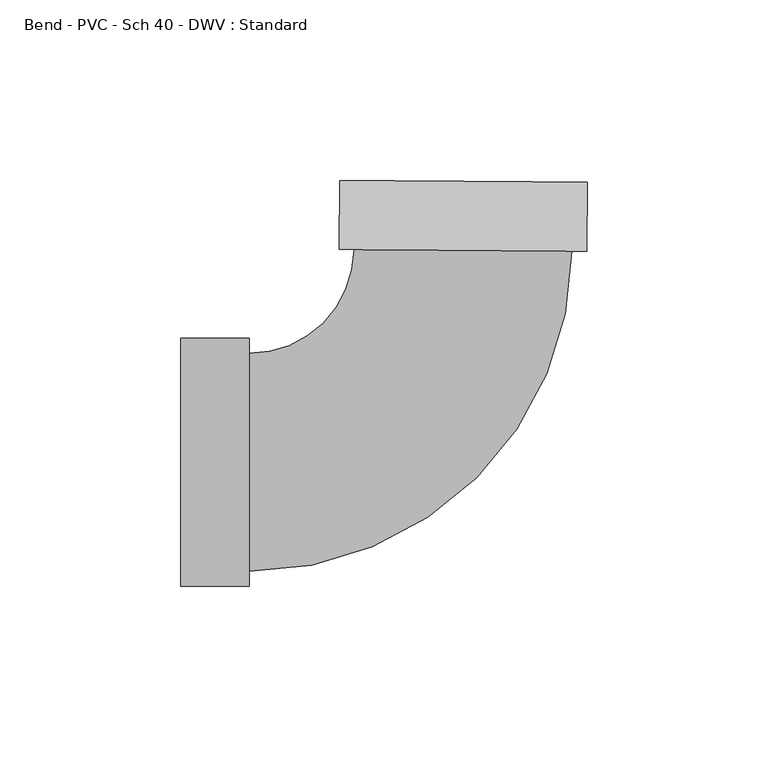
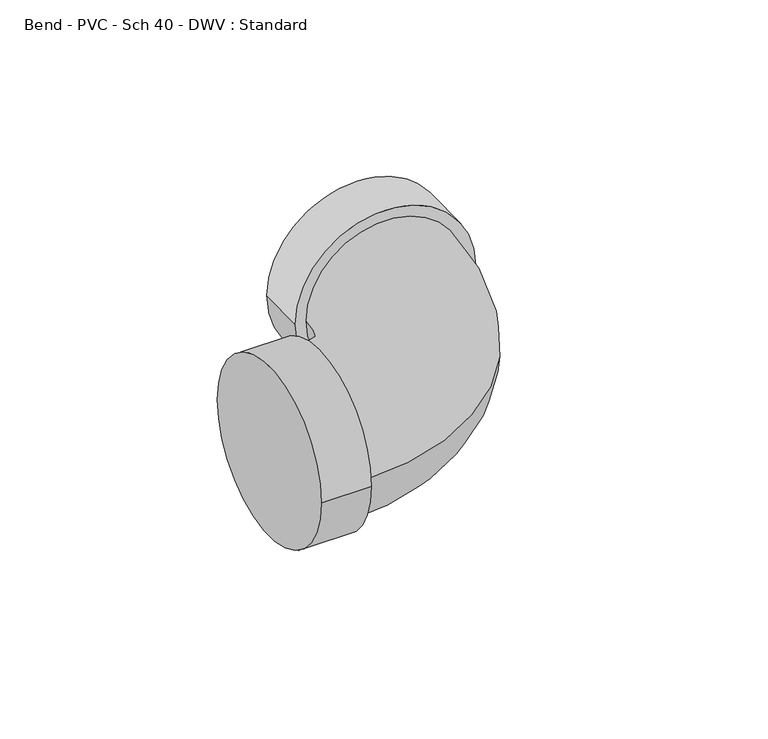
"""IFC4 building model written with IfcOpenShell, lengths in millimetres: pipe fitting geometry, Bend - PVC - Sch 40 - DWV : Standard."""

from ifc_helpers import new_model, si_unit, point, frame, origin, place, context, project, spatial, circle_curve, ellipse_curve, trimmed, source, transform, mapped, element, save
from ifc_brep_helpers import plane_surface, cylinder_surface, revolved_surface, advanced_brep


def bend_pvc_sch_40_dwv_standard_e19a0162(model_context):
    return source(origin(), model_context, "Body", "AdvancedBrep", [
        advanced_brep(
        [(-77.8002, -34.3154, 0.0), (-77.8002, 34.3154, 0.0), (-58.7502, -34.3154, 0.0), (-58.7502, 34.3154, 0.0), (-58.7502, -30.1625, 0.0), (-58.7502, 30.1625, 0.0), (-29.7304342, 58.9700236, 0.0), (30.5929405, 58.5272107, 0.0), (34.7457287, 58.4967266, 0.0), (-33.8832223, 59.0005078, 0.0), (34.8855643, 77.5462133, 0.0), (-33.7433867, 78.0499946, 0.0)],
        [
            (0, 1, circle_curve(frame((-77.8002, 0.0, 0.0), z_axis=(-1.0, 0.0, 0.0), x_axis=(0.0, 1.0, 0.0)), 34.3154)),
            (1, 0, circle_curve(frame((-77.8002, 0.0, 0.0), z_axis=(-1.0, 0.0, 0.0), x_axis=(0.0, 1.0, 0.0)), 34.3154)),
            (2, 3, circle_curve(frame((-58.7502, 0.0, 0.0), z_axis=(1.0, 0.0, 0.0), x_axis=(0.0, 1.0, 0.0)), 34.3154)),
            (3, 2, circle_curve(frame((-58.7502, 0.0, 0.0), z_axis=(1.0, 0.0, 0.0), x_axis=(0.0, 1.0, 0.0)), 34.3154)),
            (4, 5, circle_curve(frame((-58.7502, 0.0, 0.0), z_axis=(-1.0, 0.0, 0.0), x_axis=(0.0, 1.0, 0.0)), 30.1625)),
            (5, 4, circle_curve(frame((-58.7502, 0.0, 0.0), z_axis=(-1.0, 0.0, 0.0), x_axis=(0.0, 1.0, 0.0)), 30.1625)),
            (0, 2),
            (3, 1),
            (6, 5, circle_curve(frame((-58.7502, 59.1830476, 0.0), z_axis=(0.0, 0.0, -1.0), x_axis=(0.0, -1.0, 0.0)), 29.0205476)),
            (4, 7, circle_curve(frame((-58.7502, 59.1830476, 0.0), z_axis=(0.0, 0.0, 1.0), x_axis=(0.0, -1.0, 0.0)), 89.3455476)),
            (7, 6, circle_curve(frame((0.4312532, 58.7486172, 0.0), z_axis=(-0.007340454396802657, -0.999973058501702, 0.0), x_axis=(-0.999973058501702, 0.007340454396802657, 0.0)), 30.1625)),
            (6, 7, circle_curve(frame((0.4312532, 58.7486172, 0.0), z_axis=(-0.007340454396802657, -0.999973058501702, 0.0), x_axis=(-0.999973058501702, 0.007340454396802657, 0.0)), 30.1625)),
            (8, 9, circle_curve(frame((0.4312532, 58.7486172, 0.0), z_axis=(-0.007340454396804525, -0.9999730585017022, 0.0), x_axis=(-0.9999730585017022, 0.007340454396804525, 0.0)), 34.3154)),
            (9, 8, circle_curve(frame((0.4312532, 58.7486172, 0.0), z_axis=(-0.007340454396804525, -0.9999730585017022, 0.0), x_axis=(-0.9999730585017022, 0.007340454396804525, 0.0)), 34.3154)),
            (10, 11, circle_curve(frame((0.5710888, 77.7981039, 0.0), z_axis=(0.007340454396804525, 0.9999730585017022, 0.0), x_axis=(-0.9999730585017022, 0.007340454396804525, 0.0)), 34.3154)),
            (11, 10, circle_curve(frame((0.5710888, 77.7981039, 0.0), z_axis=(0.007340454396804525, 0.9999730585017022, 0.0), x_axis=(-0.9999730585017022, 0.007340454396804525, 0.0)), 34.3154)),
            (8, 10),
            (11, 9),
        ],
        [
            plane_surface(frame((-77.8002, 0.0, 0.0), z_axis=(-1.0, 0.0, 0.0), x_axis=(0.0, 0.0, 1.0))),
            plane_surface(frame((-58.7502, 0.0, 0.0), z_axis=(1.0, 0.0, 0.0), x_axis=(0.0, 0.0, 1.0))),
            cylinder_surface(frame((-77.8002, 0.0, 0.0), z_axis=(-1.0, 0.0, 0.0), x_axis=(0.0, 1.0, 0.0)), 34.3154),
            revolved_surface(trimmed(ellipse_curve(frame((-58.7502, 0.0, 0.0), z_axis=(-1.0, 0.0, 0.0), x_axis=(0.0, 1.0, 0.0)), 30.1625, 30.1625), [point((-58.7502, -30.1625, 0.0))], [point((-58.7502, 30.1625, 0.0))], True, "CARTESIAN"), (-58.7502, 59.1830476, 0.0), (0.0, 0.0, 1.0)),
            revolved_surface(trimmed(ellipse_curve(frame((-58.7502, 0.0, 0.0), z_axis=(-1.0, 0.0, 0.0), x_axis=(0.0, 1.0, 0.0)), 30.1625, 30.1625), [point((-58.7502, 30.1625, 0.0))], [point((-58.7502, -30.1625, 0.0))], True, "CARTESIAN"), (-58.7502, 59.1830476, 0.0), (0.0, 0.0, 1.0)),
            plane_surface(frame((0.4312532, 58.7486172, 0.0), z_axis=(-0.007340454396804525, -0.9999730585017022, 0.0), x_axis=(0.0, 0.0, 1.0))),
            plane_surface(frame((0.5710888, 77.7981039, 0.0), z_axis=(0.007340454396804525, 0.9999730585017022, 0.0), x_axis=(0.0, 0.0, 1.0))),
            cylinder_surface(frame((0.4312532, 58.7486172, 0.0), z_axis=(-0.007340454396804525, -0.9999730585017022, 0.0), x_axis=(-0.9999730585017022, 0.007340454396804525, 0.0)), 34.3154),
        ],
        [
            (0, [[1, 2]]),
            (1, [[3, 4], [5, 6]]),
            (2, [[-1, 7, -4, 8]]),
            (2, [[-2, -8, -3, -7]]),
            (3, [[9, -5, 10, 11]]),
            (4, [[-9, 12, -10, -6]]),
            (5, [[13, 14], [-11, -12]]),
            (6, [[15, 16]]),
            (7, [[-13, 17, -16, 18]]),
            (7, [[-14, -18, -15, -17]]),
        ],
    ),
    ])


if __name__ == "__main__":
    model = new_model("IFC4")
    model_context = context("Model", 3, world=origin())
    ifc_project = project(units=[si_unit("LENGTHUNIT", "METRE", prefix="MILLI")], contexts=[model_context])
    site = spatial("IfcSite", under=ifc_project)
    building = spatial("IfcBuilding", under=site)
    placement = place(None, origin())
    bend_pvc_sch_40_dwv_standard_shape = bend_pvc_sch_40_dwv_standard_e19a0162(model_context)
    element("IfcPipeFitting", 1, ObjectType="Bend - PVC - Sch 40 - DWV : Standard", at=placement, inside=building, context=model_context, shape_type="MappedRepresentation", body=[
        mapped(bend_pvc_sch_40_dwv_standard_shape, transform((0.0, 0.0, 0.0), x_axis=(1.0, 0.0, 0.0), y_axis=(0.0, 1.0, 0.0), z_axis=(0.0, 0.0, 1.0))),
    ])
    save(model, "model.ifc")
